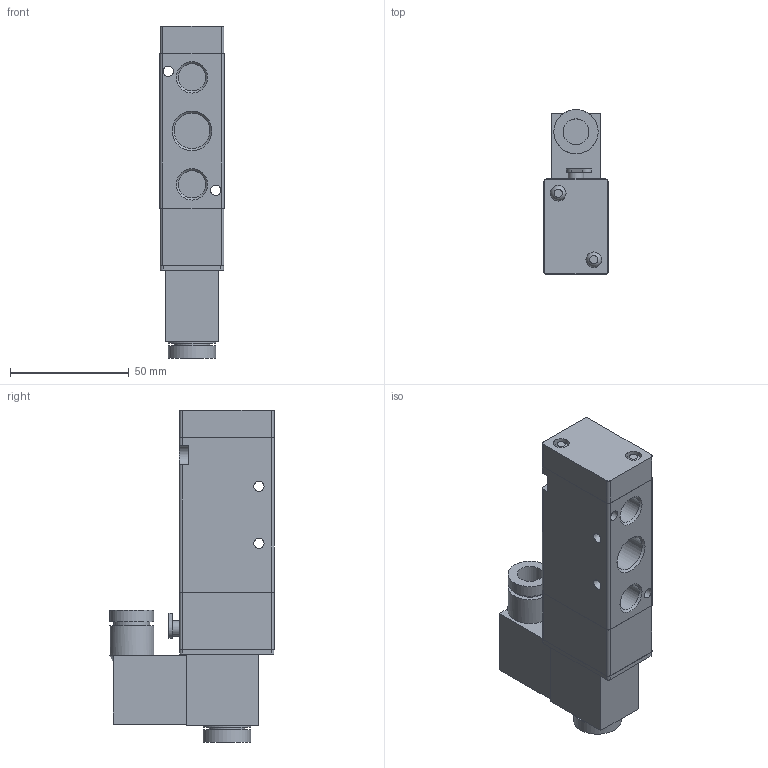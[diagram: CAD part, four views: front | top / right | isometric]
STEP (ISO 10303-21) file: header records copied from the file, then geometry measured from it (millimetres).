
FILE_DESCRIPTION( ( 'STEP AP214' ), '1' );
FILE_NAME( 'C:/Users/emc02044/Desktop/RV五通/RV5231-10QE9.stp', '2026-07-31T04:30:12', ( 'License CC BY-ND 4.0' ), ( 'CADENAS' ), ' ', 'PARTsolutions', ' ' );
FILE_SCHEMA( ( 'AUTOMOTIVE_DESIGN { 1 0 10303 214 1 1 1 1 }' ) );
Length unit declared in the file: millimetre
Products named in the file (1): _RV5231-10QE9
Bounding box: 27 x 69.3 x 139.6 mm (x, y, z)
Volume: 142412.8 mm3; surface area: 29335.5 mm2
Topology: 1 solids, 1 shells, 104 faces, 243 edges, 161 vertices
Faces by surface type: plane 55, cylinder 41, cone 6, sphere 2
Full cylindrical faces by diameter (mm): 4.3 x4, 6.5 x1, 6.6 x2, 10.8 x1, 11.445 x2, 14.95 x3, 15 x2, 18.6 x2, 20 x2
Entity records: 3701 total; most frequent: DIRECTION 511, CARTESIAN_POINT 494, ORIENTED_EDGE 424, EDGE_CURVE 212, AXIS2_PLACEMENT_3D 195, EDGE_LOOP 158, VERTEX_POINT 156, FACE_OUTER_BOUND 125
